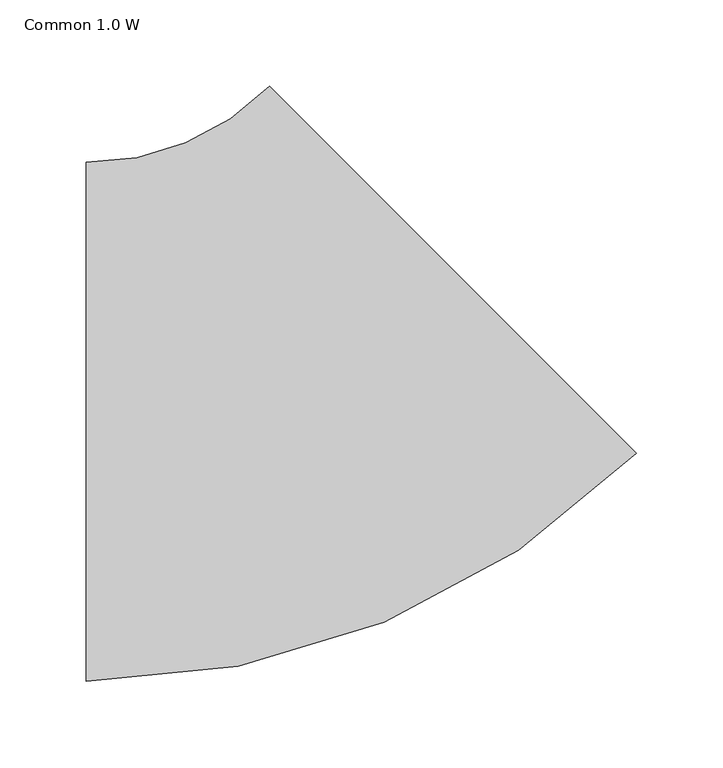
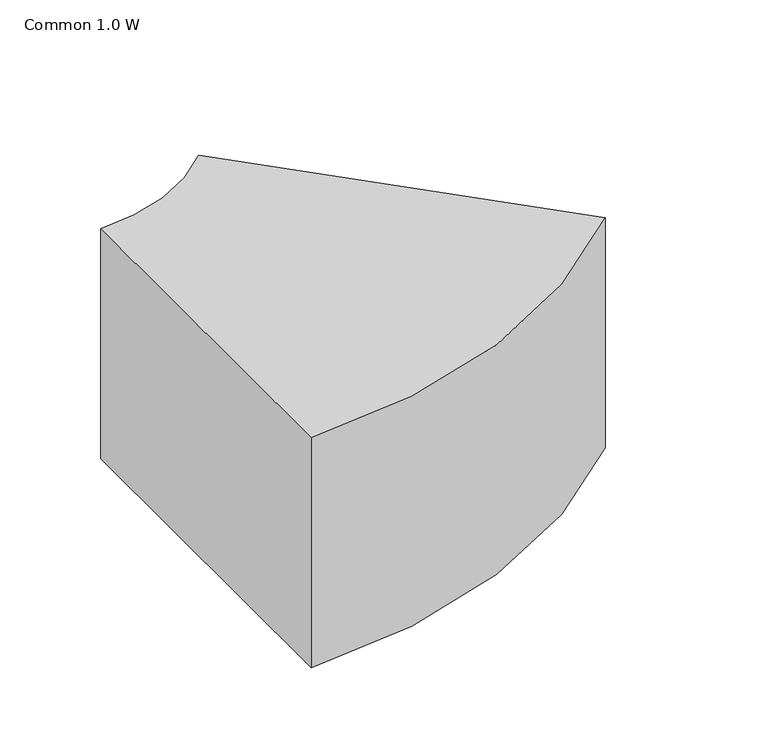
"""IFC4 building model written with IfcOpenShell, lengths in millimetres: duct fitting geometry, 011_角型エルボ - 半径 : Common 1.0 W."""

from ifc_helpers import new_model, si_unit, point, frame, frame_2d, origin, place, context, project, spatial, polyline, circle_curve, trimmed, segment, composite_curve, outline, extrude, source, transform, mapped, element, save


def common_1_0_w_45d880c6(model_context):
    return source(origin(), model_context, "Body", "SweptSolid", [
        extrude(outline(composite_curve([segment(trimmed(circle_curve(frame_2d((-124.2640687, 300.0)), 450.0), [point((193.9339828, -18.1980515))], [point((-124.2640687, -150.0))], False, "CARTESIAN"), True, "CONTINUOUS"), segment(polyline([(-124.2640687, -150.0), (-124.2640687, 150.0)]), True, "CONTINUOUS"), segment(trimmed(circle_curve(frame_2d((-124.2640687, 300.0)), 150.0), [point((-124.2640687, 150.0))], [point((-18.1980515, 193.9339828))], True, "CARTESIAN"), True, "CONTINUOUS"), segment(polyline([(-18.1980515, 193.9339828), (193.9339828, -18.1980515)]), True, "CONTINUOUS")], self_intersect=False)), frame((0.0, 0.0, -100.0), z_axis=(0.0, 0.0, 1.0), x_axis=(1.0, 0.0, 0.0)), (0.0, 0.0, 1.0), 200.0),
    ])


if __name__ == "__main__":
    model = new_model("IFC4")
    model_context = context("Model", 3, world=origin())
    ifc_project = project(units=[si_unit("LENGTHUNIT", "METRE", prefix="MILLI")], contexts=[model_context])
    site = spatial("IfcSite", under=ifc_project)
    building = spatial("IfcBuilding", under=site)
    placement = place(None, origin())
    common_1_0_w_shape = common_1_0_w_45d880c6(model_context)
    element("IfcDuctFitting", 1, ObjectType="011_角型エルボ - 半径 : Common 1.0 W", at=placement, inside=building, context=model_context, shape_type="MappedRepresentation", body=[
        mapped(common_1_0_w_shape, transform((0.0, 0.0, 0.0), x_axis=(1.0, 0.0, 0.0), y_axis=(0.0, 1.0, 0.0), z_axis=(0.0, 0.0, 1.0))),
    ])
    save(model, "model.ifc")
